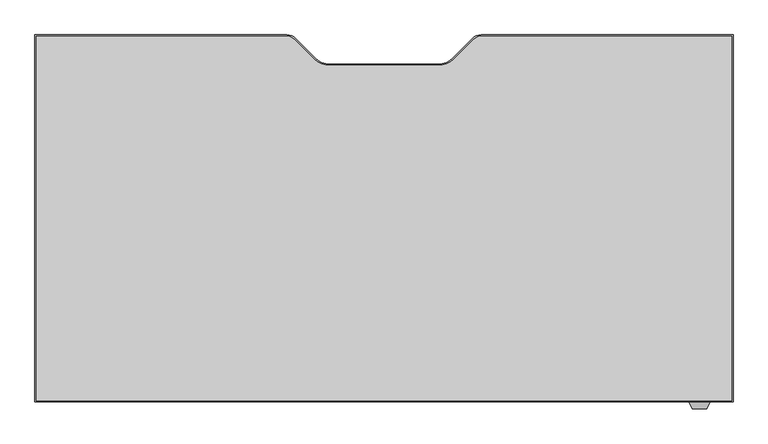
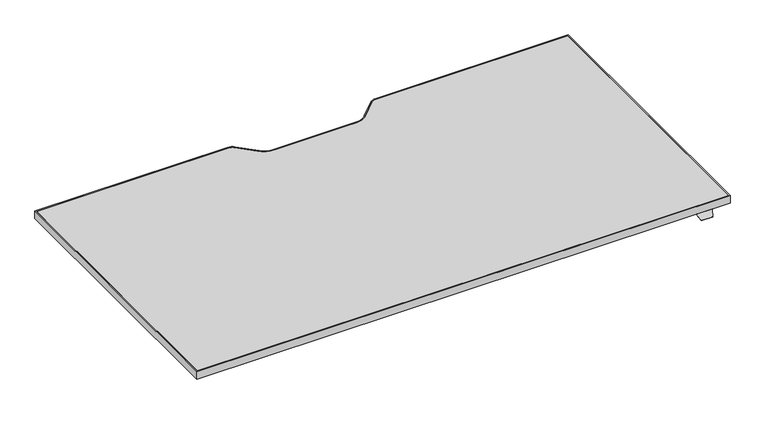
"""IFC4 building model written with IfcOpenShell, lengths in millimetres: furniture geometry, Steelcase Turnstone - Bivi - Height Adjustable Desk - T Base : 35D x 66.5W."""

from ifc_helpers import new_model, si_unit, point, frame, frame_2d, origin, place, context, project, spatial, polyline, circle_curve, trimmed, segment, composite_curve, outline, extrude, faceted_brep, source, transform, mapped, element, save


def furniture_7dcf5030(model_context):
    return source(origin(), model_context, "Body", "SolidModel", [
        faceted_brep([(398.5677913, -542.0301693, 760.9984131), (398.5677913, -539.5074599, 760.9984131), (398.5677913, -539.5074599, 762.4), (398.5677913, -542.0490853, 762.4), (398.5677913, -543.3594921, 761.3004382), (398.5677913, -543.3594921, 759.8829789), (348.9948135, -542.0490853, 762.4), (348.9948135, -539.5074599, 762.4), (348.9948135, -539.5074599, 760.9984131), (348.9948135, -542.0301693, 760.9984131), (348.9948135, -543.3594921, 759.8829789), (348.9948135, -543.3594921, 761.3004382), (391.5858363, -558.3323429, 748.7367246), (355.9767685, -558.3323429, 748.7367246), (355.6173686, -557.5616074, 747.9659891), (391.9452362, -557.5616074, 747.9659891)], [[[0, 1, 2, 3, 4, 5]], [[6, 7, 8, 9, 10, 11]], [[12, 13, 14, 15]], [[9, 0, 5, 15, 14, 10]], [[1, 0, 9, 8]], [[2, 1, 8, 7]], [[3, 2, 7, 6]], [[3, 6, 11, 13, 12, 4]], [[5, 4, 12, 15]], [[11, 10, 14, 13]]]),
        extrude(outline(composite_curve([segment(polyline([(-1233.7785908, 346.9509147), (-623.9070191, 346.9509147)]), True, "CONTINUOUS"), segment(trimmed(circle_curve(frame_2d((-623.9070191, 318.2489147)), 28.702), [point((-623.9070191, 346.9509147))], [point((-603.6116402, 338.5442935))], False, "CARTESIAN"), True, "CONTINUOUS"), segment(polyline([(-603.6116402, 338.5442935), (-556.0972358, 291.0298891)]), True, "CONTINUOUS"), segment(trimmed(circle_curve(frame_2d((-520.1762113, 326.9509136)), 50.8), [point((-556.0972358, 291.0298891))], [point((-520.1762113, 276.1509136))], True, "CARTESIAN"), True, "CONTINUOUS"), segment(polyline([(-520.1762113, 276.1509136), (-258.2809703, 276.1509136)]), True, "CONTINUOUS"), segment(trimmed(circle_curve(frame_2d((-258.2809703, 326.9509136)), 50.8), [point((-258.2809703, 276.1509136))], [point((-222.3599458, 291.0298891))], True, "CARTESIAN"), True, "CONTINUOUS"), segment(polyline([(-222.3599458, 291.0298891), (-174.8455414, 338.5442935)]), True, "CONTINUOUS"), segment(trimmed(circle_curve(frame_2d((-154.5501625, 318.2489147)), 28.702), [point((-174.8455414, 338.5442935))], [point((-154.5501625, 346.9509147))], False, "CARTESIAN"), True, "CONTINUOUS"), segment(polyline([(-154.5501625, 346.9509147), (455.3214092, 346.9509147), (455.3214092, -542.0490853), (-1233.7785908, -542.0490853), (-1233.7785908, 346.9509147)]), True, "CONTINUOUS")], self_intersect=False), holes=[composite_curve([segment(polyline([(-1230.3987543, 343.6489147), (-1230.3987543, -538.7470853), (452.0194092, -538.7470853), (452.0194092, 343.6489147), (-154.5501625, 343.6489147)]), True, "CONTINUOUS"), segment(trimmed(circle_curve(frame_2d((-154.5501625, 318.2489147)), 25.4), [point((-154.5501625, 343.6489147))], [point((-172.5106748, 336.2094269))], True, "CARTESIAN"), True, "CONTINUOUS"), segment(polyline([(-172.5106748, 336.2094269), (-220.527602, 288.1924998)]), True, "CONTINUOUS"), segment(trimmed(circle_curve(frame_2d((-256.4486265, 324.1135242)), 50.8), [point((-220.527602, 288.1924998))], [point((-256.4486265, 273.3135242))], False, "CARTESIAN"), True, "CONTINUOUS"), segment(polyline([(-256.4486265, 273.3135242), (-389.2285908, 273.3135242), (-522.0085552, 273.3135242)]), True, "CONTINUOUS"), segment(trimmed(circle_curve(frame_2d((-522.0085552, 324.1135242)), 50.8), [point((-522.0085552, 273.3135242))], [point((-557.9295796, 288.1924998))], False, "CARTESIAN"), True, "CONTINUOUS"), segment(polyline([(-557.9295796, 288.1924998), (-605.9465068, 336.2094269)]), True, "CONTINUOUS"), segment(trimmed(circle_curve(frame_2d((-623.9070191, 318.2489147)), 25.4), [point((-605.9465068, 336.2094269))], [point((-623.9070191, 343.6489147))], True, "CARTESIAN"), True, "CONTINUOUS"), segment(polyline([(-623.9070191, 343.6489147), (-1230.3987543, 343.6489147)]), True, "CONTINUOUS")], self_intersect=False)]), frame((0.0, 0.0, 762.4), z_axis=(0.0, 0.0, 1.0), x_axis=(1.0, 0.0, 0.0)), (0.0, 0.0, 1.0), 25.0),
        extrude(outline(composite_curve([segment(polyline([(-1230.3987543, 343.6489147), (-623.9070191, 343.6489147)]), True, "CONTINUOUS"), segment(trimmed(circle_curve(frame_2d((-623.9070191, 318.2489147)), 25.4), [point((-623.9070191, 343.6489147))], [point((-605.9465068, 336.2094269))], False, "CARTESIAN"), True, "CONTINUOUS"), segment(polyline([(-605.9465068, 336.2094269), (-557.9295796, 288.1924998)]), True, "CONTINUOUS"), segment(trimmed(circle_curve(frame_2d((-522.0085552, 324.1135242)), 50.8), [point((-557.9295796, 288.1924998))], [point((-522.0085552, 273.3135242))], True, "CARTESIAN"), True, "CONTINUOUS"), segment(polyline([(-522.0085552, 273.3135242), (-389.2285908, 273.3135242), (-256.4486265, 273.3135242)]), True, "CONTINUOUS"), segment(trimmed(circle_curve(frame_2d((-256.4486265, 324.1135242)), 50.8), [point((-256.4486265, 273.3135242))], [point((-220.527602, 288.1924998))], True, "CARTESIAN"), True, "CONTINUOUS"), segment(polyline([(-220.527602, 288.1924998), (-172.5106748, 336.2094269)]), True, "CONTINUOUS"), segment(trimmed(circle_curve(frame_2d((-154.5501625, 318.2489147)), 25.4), [point((-172.5106748, 336.2094269))], [point((-154.5501625, 343.6489147))], False, "CARTESIAN"), True, "CONTINUOUS"), segment(polyline([(-154.5501625, 343.6489147), (452.0194092, 343.6489147), (452.0194092, -538.7470853), (-1230.3987543, -538.7470853), (-1230.3987543, 343.6489147)]), True, "CONTINUOUS")], self_intersect=False)), frame((0.0, 0.0, 762.4), z_axis=(0.0, 0.0, 1.0), x_axis=(1.0, 0.0, 0.0)), (0.0, 0.0, 1.0), 25.0),
    ])


if __name__ == "__main__":
    model = new_model("IFC4")
    model_context = context("Model", 3, world=origin())
    ifc_project = project(units=[si_unit("LENGTHUNIT", "METRE", prefix="MILLI")], contexts=[model_context])
    site = spatial("IfcSite", under=ifc_project)
    building = spatial("IfcBuilding", under=site)
    placement = place(None, origin())
    furniture_shape = furniture_7dcf5030(model_context)
    element("IfcFurniture", 1, ObjectType="Steelcase Turnstone - Bivi - Height Adjustable Desk - T Base : 35D x 66.5W", at=placement, inside=building, context=model_context, shape_type="MappedRepresentation", body=[
        mapped(furniture_shape, transform((0.0, 0.0, 0.0), x_axis=(1.0, 0.0, 0.0), y_axis=(0.0, 1.0, 0.0), z_axis=(0.0, 0.0, 1.0))),
    ])
    save(model, "model.ifc")
